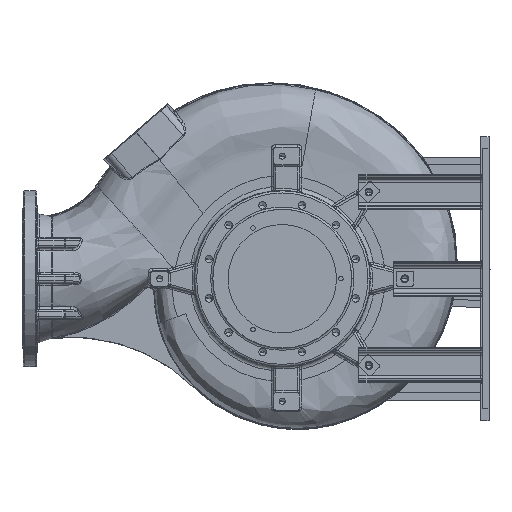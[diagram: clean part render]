
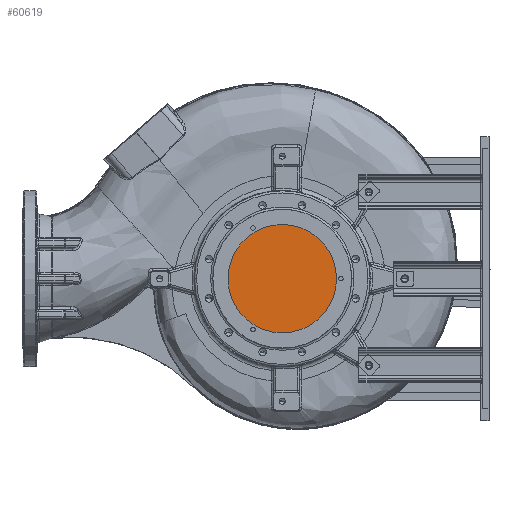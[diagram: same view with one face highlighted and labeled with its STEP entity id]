
A CAD part, left-side view. The second image highlights one B-rep face of the part: STEP entity #60619.
In plain terms, the highlighted planar face has unit normal (-1, 0, 0).
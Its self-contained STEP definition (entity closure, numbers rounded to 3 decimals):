
#4495 = ORIENTED_EDGE ( 'NONE', *, *, #23501, .T. ) ;
#8327 = AXIS2_PLACEMENT_3D ( 'NONE', #9509, #91436, #21297 ) ;
#9509 = CARTESIAN_POINT ( 'NONE',  ( 0., -600., 0. ) ) ;
#21297 = DIRECTION ( 'NONE',  ( 0., 0., -1. ) ) ;
#23501 = EDGE_CURVE ( 'NONE', #129541, #44460, #58837, .T. ) ;
#32039 = CARTESIAN_POINT ( 'NONE',  ( 0., -600., -124.942 ) ) ;
#44460 = VERTEX_POINT ( 'NONE', #100320 ) ;
#44632 = PLANE ( 'NONE',  #75079 ) ;
#51690 = EDGE_LOOP ( 'NONE', ( #4495, #82525 ) ) ;
#56898 = CARTESIAN_POINT ( 'NONE',  ( 0., -600., 0. ) ) ;
#58837 = CIRCLE ( 'NONE', #8327, 124.942 ) ;
#60619 = ADVANCED_FACE ( 'NONE', ( #109081 ), #44632, .T. ) ;
#66699 = DIRECTION ( 'NONE',  ( -1., 0., 0. ) ) ;
#68664 = DIRECTION ( 'NONE',  ( 0., 0., -1. ) ) ;
#75079 = AXIS2_PLACEMENT_3D ( 'NONE', #56898, #139004, #68664 ) ;
#82525 = ORIENTED_EDGE ( 'NONE', *, *, #84941, .T. ) ;
#84941 = EDGE_CURVE ( 'NONE', #44460, #129541, #125654, .T. ) ;
#86966 = AXIS2_PLACEMENT_3D ( 'NONE', #137051, #66699, #148843 ) ;
#91436 = DIRECTION ( 'NONE',  ( -1., 0., 0. ) ) ;
#100320 = CARTESIAN_POINT ( 'NONE',  ( 0., -600., 124.942 ) ) ;
#109081 = FACE_OUTER_BOUND ( 'NONE', #51690, .T. ) ;
#125654 = CIRCLE ( 'NONE', #86966, 124.942 ) ;
#129541 = VERTEX_POINT ( 'NONE', #32039 ) ;
#137051 = CARTESIAN_POINT ( 'NONE',  ( 0., -600., 0. ) ) ;
#139004 = DIRECTION ( 'NONE',  ( -1., 0., 0. ) ) ;
#148843 = DIRECTION ( 'NONE',  ( 0., 0., -1. ) ) ;
